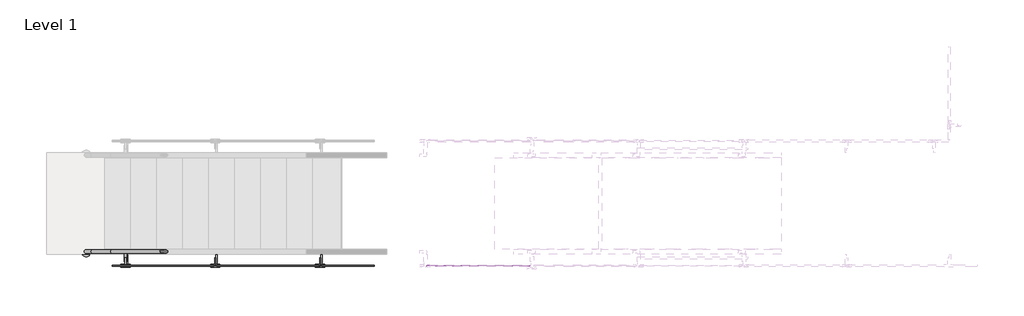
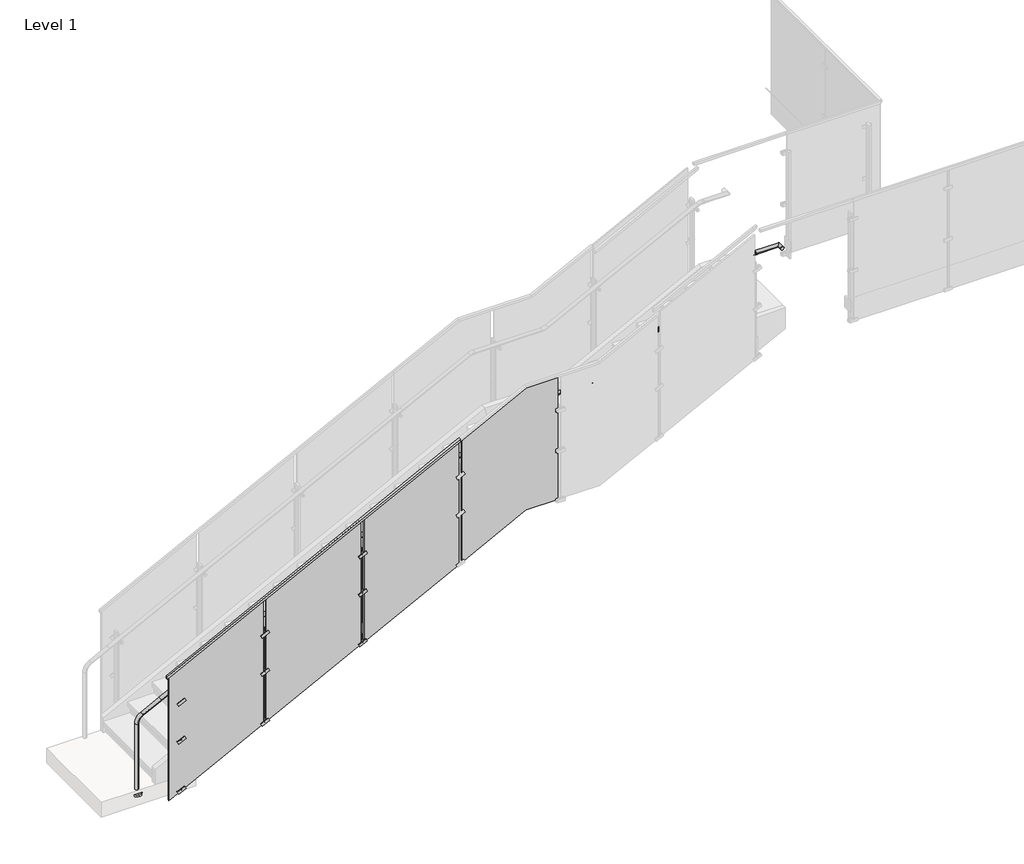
# One storey, part 32 of 37: 2 railings.
"""IFC4 building model written with IfcOpenShell, lengths in millimetres."""

from ifc_helpers import new_model, si_unit, point, frame, frame_2d, origin, place, context, project, spatial, polyline, circle_curve, ellipse_curve, trimmed, segment, composite_curve, outline, extrude, faceted_brep, transform, mapped, element, save
from ifc_brep_helpers import plane_surface, cylinder_surface, revolved_surface, advanced_brep
from components import baluster_landing_panel_viva_solo_lower_standard_glass_65fc855e

model = new_model("IFC4")

# Units and contexts
model_context = context("Model", 3, world=origin())
ifc_project = project(units=[si_unit("LENGTHUNIT", "METRE", prefix="MILLI")], contexts=[model_context])

# Site, building, storey
site = spatial("IfcSite", under=ifc_project)
building = spatial("IfcBuilding", under=site)
storey = spatial("IfcBuildingStorey", under=building, Name="Level 1", Elevation=0.0)

# Railings
placement = place(None, origin())
element("IfcRailing", 1, ObjectType="VIVA-SOLO-Glass-Fascia Mount-Stair-A1_Right_Lower", at=placement, inside=storey, context=model_context, shape_type="SolidModel", body=[
    advanced_brep(
    [(7831.7713929, 32635.0081645, 3765.2852907), (7831.7713929, 32673.1081645, 3765.2852907), (8104.8213929, 32673.1081645, 3765.2852907), (8066.7213929, 32635.0081645, 3765.2852907), (8066.7213929, 32590.5581645, 3765.2852907), (8104.8213929, 32590.5581645, 3765.2852907)],
    [
        (0, 1, circle_curve(frame((7831.7713929, 32654.0581645, 3765.2852907), z_axis=(-1.0, 0.0, 0.0), x_axis=(0.0, 1.0, 0.0)), 19.05)),
        (1, 0, circle_curve(frame((7831.7713929, 32654.0581645, 3765.2852907), z_axis=(-1.0, 0.0, 0.0), x_axis=(0.0, 1.0, 0.0)), 19.05)),
        (1, 2),
        (2, 3, ellipse_curve(frame((8085.7713929, 32654.0581645, 3765.2852907), z_axis=(-0.7071067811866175, 0.7071067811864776, 0.0), x_axis=(-0.7071067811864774, -0.7071067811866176, 0.0)), 26.9407684, 19.05)),
        (3, 0),
        (3, 2, ellipse_curve(frame((8085.7713929, 32654.0581645, 3765.2852907), z_axis=(-0.7071067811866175, 0.7071067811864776, 0.0), x_axis=(-0.7071067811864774, -0.7071067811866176, 0.0)), 26.9407684, 19.05)),
        (4, 5, circle_curve(frame((8085.7713929, 32590.5581645, 3765.2852907), z_axis=(0.0, -1.0, 0.0), x_axis=(1.0, 0.0, 0.0)), 19.05)),
        (5, 4, circle_curve(frame((8085.7713929, 32590.5581645, 3765.2852907), z_axis=(0.0, -1.0, 0.0), x_axis=(1.0, 0.0, 0.0)), 19.05)),
        (2, 5),
        (4, 3),
    ],
    [
        plane_surface(frame((7831.7713929, 32654.0581645, 3765.2852907), z_axis=(-1.0, 0.0, 0.0), x_axis=(0.0, 0.0, 1.0))),
        cylinder_surface(frame((7831.7713929, 32654.0581645, 3765.2852907), z_axis=(-1.0, 0.0, 0.0), x_axis=(0.0, 1.0, 0.0)), 19.05),
        plane_surface(frame((8085.7713929, 32590.5581645, 3765.2852907), z_axis=(0.0, -1.0, 0.0), x_axis=(0.0, 0.0, 1.0))),
        cylinder_surface(frame((8085.7713929, 32654.0581645, 3765.2852907), z_axis=(0.0, 1.0, 0.0), x_axis=(1.0, 0.0, 0.0)), 19.05),
    ],
    [
        (0, [[1, 2]]),
        (1, [[-2, 3, 4, 5]]),
        (1, [[-1, -5, 6, -3]]),
        (2, [[7, 8]]),
        (3, [[-4, 9, -7, 10]]),
        (3, [[-6, -10, -8, -9]]),
    ],
),
    extrude(outline(composite_curve([segment(trimmed(circle_curve(frame_2d((1187.6734986, 32654.0581645)), 50.8), [point((1187.6734986, 32704.8581645))], [point((1187.6734986, 32603.2581645))], False, "CARTESIAN"), True, "CONTINUOUS"), segment(trimmed(circle_curve(frame_2d((1187.6734986, 32654.0581645)), 50.8), [point((1187.6734986, 32603.2581645))], [point((1187.6734986, 32704.8581645))], False, "CARTESIAN"), True, "CONTINUOUS")], self_intersect=False)), frame((0.0, 0.0, -55.5403542), z_axis=(0.0, 0.0, 1.0), x_axis=(1.0, 0.0, 0.0)), (0.0, 0.0, 1.0), 19.05),
    advanced_brep(
    [(1187.6734986, 32635.0081645, -36.4903542), (1187.6734986, 32673.1081645, -36.4903542), (1187.6734986, 32635.0081645, 742.5735715), (1187.6734986, 32673.1081645, 742.5735715), (1243.1848475, 32673.1081645, 833.1185672), (1243.1848475, 32635.0081645, 833.1185672), (1437.6151207, 32635.0081645, 932.0862566), (1437.6151207, 32673.1081645, 932.0862566), (4587.2151207, 32635.0081645, 2535.2760764), (4587.2151207, 32673.1081645, 2535.2760764), (5315.9107862, 32635.0081645, 2906.1922157), (5315.9107862, 32673.1081645, 2906.1922157), (5361.9994372, 32673.1081645, 2917.24722), (5361.9994372, 32635.0081645, 2917.24722), (6083.6428818, 32635.0081645, 2917.24722), (6083.6428818, 32673.1081645, 2917.24722), (6146.9428171, 32673.1081645, 2932.4112486), (6146.9428171, 32635.0081645, 2932.4112486), (7763.8377921, 32635.0081645, 3754.2569063), (7763.8377921, 32673.1081645, 3754.2569063), (7809.8741087, 32673.1081645, 3765.2852907), (7809.8741087, 32635.0081645, 3765.2852907), (7831.7713929, 32635.0081645, 3765.2852907), (7831.7713929, 32673.1081645, 3765.2852907)],
    [
        (0, 1, circle_curve(frame((1187.6734986, 32654.0581645, -36.4903542), z_axis=(0.0, 0.0, -1.0), x_axis=(0.0, 1.0, 0.0)), 19.05)),
        (1, 0, circle_curve(frame((1187.6734986, 32654.0581645, -36.4903542), z_axis=(0.0, 0.0, -1.0), x_axis=(0.0, 1.0, 0.0)), 19.05)),
        (0, 2),
        (2, 3, circle_curve(frame((1187.6734986, 32654.0581645, 742.5735715), z_axis=(0.0, 0.0, -1.0), x_axis=(0.0, 1.0, 0.0)), 19.05)),
        (3, 1),
        (3, 2, circle_curve(frame((1187.6734986, 32654.0581645, 742.5735715), z_axis=(0.0, 0.0, -1.0), x_axis=(0.0, 1.0, 0.0)), 19.05)),
        (4, 3, circle_curve(frame((1289.2734986, 32673.1081645, 742.5735715), z_axis=(0.0, -1.0, 0.0), x_axis=(-0.9999999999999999, 0.0, 0.0)), 101.6)),
        (2, 5, circle_curve(frame((1289.2734986, 32635.0081645, 742.5735715), z_axis=(0.0, 1.0, 0.0), x_axis=(-0.9999999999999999, 0.0, 0.0)), 101.6)),
        (5, 4, circle_curve(frame((1243.1848475, 32654.0581645, 833.1185672), z_axis=(-0.8911909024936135, 0.0, -0.4536284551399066), x_axis=(0.0, 0.9999999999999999, 0.0)), 19.05)),
        (4, 5, circle_curve(frame((1243.1848475, 32654.0581645, 833.1185672), z_axis=(-0.8911909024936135, 0.0, -0.4536284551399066), x_axis=(0.0, 0.9999999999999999, 0.0)), 19.05)),
        (5, 6),
        (6, 7, circle_curve(frame((1437.6151207, 32654.0581645, 932.0862566), z_axis=(-0.8911909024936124, 0.0, -0.4536284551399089), x_axis=(0.0, 1.0, 0.0)), 19.05)),
        (7, 4),
        (7, 6, circle_curve(frame((1437.6151207, 32654.0581645, 932.0862566), z_axis=(-0.8911909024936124, 0.0, -0.4536284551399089), x_axis=(0.0, 1.0, 0.0)), 19.05)),
        (6, 8),
        (8, 9, circle_curve(frame((4587.2151207, 32654.0581645, 2535.2760764), z_axis=(-0.8911909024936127, 0.0, -0.4536284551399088), x_axis=(0.0, 1.0, 0.0)), 19.05)),
        (9, 7),
        (9, 8, circle_curve(frame((4587.2151207, 32654.0581645, 2535.2760764), z_axis=(-0.8911909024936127, 0.0, -0.4536284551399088), x_axis=(0.0, 1.0, 0.0)), 19.05)),
        (8, 10),
        (10, 11, circle_curve(frame((5315.9107862, 32654.0581645, 2906.1922157), z_axis=(-0.8911909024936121, 0.0, -0.45362845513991), x_axis=(0.0, 1.0, 0.0)), 19.05)),
        (11, 9),
        (11, 10, circle_curve(frame((5315.9107862, 32654.0581645, 2906.1922157), z_axis=(-0.8911909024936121, 0.0, -0.45362845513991), x_axis=(0.0, 1.0, 0.0)), 19.05)),
        (12, 11, circle_curve(frame((5361.9994372, 32673.1081645, 2815.64722), z_axis=(0.0, -1.0, 0.0), x_axis=(-0.4536284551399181, 0.0, 0.8911909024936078)), 101.6)),
        (10, 13, circle_curve(frame((5361.9994372, 32635.0081645, 2815.64722), z_axis=(0.0, 1.0, 0.0), x_axis=(-0.4536284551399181, 0.0, 0.8911909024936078)), 101.6)),
        (13, 12, circle_curve(frame((5361.9994372, 32654.0581645, 2917.24722), z_axis=(-1.0, 0.0, 0.0), x_axis=(0.0, 0.9999999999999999, 0.0)), 19.05)),
        (12, 13, circle_curve(frame((5361.9994372, 32654.0581645, 2917.24722), z_axis=(-0.9999999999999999, 0.0, 0.0), x_axis=(0.0, 0.9999999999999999, 0.0)), 19.05)),
        (13, 14),
        (14, 15, circle_curve(frame((6083.6428818, 32654.0581645, 2917.24722), z_axis=(-1.0, 0.0, 0.0), x_axis=(0.0, 1.0, 0.0)), 19.05)),
        (15, 12),
        (15, 14, circle_curve(frame((6083.6428818, 32654.0581645, 2917.24722), z_axis=(-1.0, 0.0, 0.0), x_axis=(0.0, 1.0, 0.0)), 19.05)),
        (16, 17, circle_curve(frame((6146.9428171, 32654.0581645, 2932.4112486), z_axis=(0.8914529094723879, 0.0, 0.4531133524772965), x_axis=(0.0, 1.0, 0.0)), 19.05)),
        (17, 18),
        (18, 19, circle_curve(frame((7763.8377921, 32654.0581645, 3754.2569063), z_axis=(-0.8914529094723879, 0.0, -0.4531133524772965), x_axis=(0.0, 1.0, 0.0)), 19.05)),
        (19, 16),
        (17, 16, circle_curve(frame((6146.9428171, 32654.0581645, 2932.4112486), z_axis=(0.8914529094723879, 0.0, 0.4531133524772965), x_axis=(0.0, 1.0, 0.0)), 19.05)),
        (19, 18, circle_curve(frame((7763.8377921, 32654.0581645, 3754.2569063), z_axis=(-0.8914529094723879, 0.0, -0.4531133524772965), x_axis=(0.0, 1.0, 0.0)), 19.05)),
        (16, 15, circle_curve(frame((6083.6428818, 32673.1081645, 3056.94722), z_axis=(0.0, 1.0, 0.0), x_axis=(0.0, 0.0, -1.0)), 139.7)),
        (14, 17, circle_curve(frame((6083.6428818, 32635.0081645, 3056.94722), z_axis=(0.0, -1.0, 0.0), x_axis=(0.0, 0.0, -1.0)), 139.7)),
        (20, 19, circle_curve(frame((7809.8741087, 32673.1081645, 3663.6852907), z_axis=(0.0, -1.0, 0.0), x_axis=(-0.4531133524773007, 0.0, 0.8914529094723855)), 101.6)),
        (18, 21, circle_curve(frame((7809.8741087, 32635.0081645, 3663.6852907), z_axis=(0.0, 1.0, 0.0), x_axis=(-0.4531133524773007, 0.0, 0.8914529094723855)), 101.6)),
        (21, 20, circle_curve(frame((7809.8741087, 32654.0581645, 3765.2852907), z_axis=(-0.9999999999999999, 0.0, 0.0), x_axis=(0.0, 1.0, 0.0)), 19.05)),
        (20, 21, circle_curve(frame((7809.8741087, 32654.0581645, 3765.2852907), z_axis=(-0.9999999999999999, 0.0, 0.0), x_axis=(0.0, 1.0, 0.0)), 19.05)),
        (22, 23, circle_curve(frame((7831.7713929, 32654.0581645, 3765.2852907), z_axis=(1.0, 0.0, 0.0), x_axis=(0.0, 1.0, 0.0)), 19.05)),
        (23, 22, circle_curve(frame((7831.7713929, 32654.0581645, 3765.2852907), z_axis=(1.0, 0.0, 0.0), x_axis=(0.0, 1.0, 0.0)), 19.05)),
        (21, 22),
        (23, 20),
    ],
    [
        plane_surface(frame((1168.6234986, 32615.9581645, -36.4903542), z_axis=(0.0, 0.0, -1.0), x_axis=(1.0, 0.0, 0.0))),
        cylinder_surface(frame((1187.6734986, 32654.0581645, -36.4903542), z_axis=(0.0, 0.0, -1.0), x_axis=(0.0, 1.0, 0.0)), 19.05),
        revolved_surface(trimmed(ellipse_curve(frame((1187.6734986, 32654.0581645, 742.5735715), z_axis=(0.0, 0.0, -0.9999999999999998), x_axis=(0.0, 0.9999999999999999, 0.0)), 19.05, 19.05), [point((1187.6734986, 32635.0081645, 742.5735715))], [point((1187.6734986, 32673.1081645, 742.5735715))], True, "CARTESIAN"), (1289.2734986, 32654.0581645, 742.5735715), (0.0, 0.9999999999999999, 0.0)),
        revolved_surface(trimmed(ellipse_curve(frame((1187.6734986, 32654.0581645, 742.5735715), z_axis=(0.0, 0.0, -0.9999999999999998), x_axis=(0.0, 0.9999999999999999, 0.0)), 19.05, 19.05), [point((1187.6734986, 32673.1081645, 742.5735715))], [point((1187.6734986, 32635.0081645, 742.5735715))], True, "CARTESIAN"), (1289.2734986, 32654.0581645, 742.5735715), (0.0, 0.9999999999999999, 0.0)),
        cylinder_surface(frame((1243.1848475, 32654.0581645, 833.1185672), z_axis=(-0.8911909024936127, 0.0, -0.453628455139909), x_axis=(0.0, 1.0, 0.0)), 19.05),
        cylinder_surface(frame((1437.6151207, 32654.0581645, 932.0862566), z_axis=(-0.8911909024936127, 0.0, -0.4536284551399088), x_axis=(0.0, 1.0, 0.0)), 19.05),
        cylinder_surface(frame((4587.2151207, 32654.0581645, 2535.2760764), z_axis=(-0.8911909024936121, 0.0, -0.45362845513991), x_axis=(0.0, 1.0, 0.0)), 19.05),
        revolved_surface(trimmed(ellipse_curve(frame((5315.9107862, 32654.0581645, 2906.1922157), z_axis=(-0.8911909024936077, 0.0, -0.45362845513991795), x_axis=(0.0, 0.9999999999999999, 0.0)), 19.05, 19.05), [point((5315.9107862, 32635.0081645, 2906.1922157))], [point((5315.9107862, 32673.1081645, 2906.1922157))], True, "CARTESIAN"), (5361.9994372, 32654.0581645, 2815.64722), (0.0, 0.9999999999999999, 0.0)),
        revolved_surface(trimmed(ellipse_curve(frame((5315.9107862, 32654.0581645, 2906.1922157), z_axis=(-0.8911909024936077, 0.0, -0.45362845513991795), x_axis=(0.0, 0.9999999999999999, 0.0)), 19.05, 19.05), [point((5315.9107862, 32673.1081645, 2906.1922157))], [point((5315.9107862, 32635.0081645, 2906.1922157))], True, "CARTESIAN"), (5361.9994372, 32654.0581645, 2815.64722), (0.0, 0.9999999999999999, 0.0)),
        cylinder_surface(frame((5361.9994372, 32654.0581645, 2917.24722), z_axis=(-1.0, 0.0, 0.0), x_axis=(0.0, 1.0, 0.0)), 19.05),
        cylinder_surface(frame((6146.9428171, 32654.0581645, 2932.4112486), z_axis=(-0.8914529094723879, 0.0, -0.4531133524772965), x_axis=(0.0, 1.0, 0.0)), 19.05),
        revolved_surface(trimmed(ellipse_curve(frame((6083.6428818, 32654.0581645, 2917.24722), z_axis=(-1.0, 0.0, 0.0), x_axis=(0.0, 1.0, 0.0)), 19.05, 19.05), [point((6083.6428818, 32635.0081645, 2917.24722))], [point((6083.6428818, 32673.1081645, 2917.24722))], True, "CARTESIAN"), (6083.6428818, 32654.0581645, 3056.94722), (0.0, -1.0, 0.0)),
        revolved_surface(trimmed(ellipse_curve(frame((6083.6428818, 32654.0581645, 2917.24722), z_axis=(-1.0, 0.0, 0.0), x_axis=(0.0, 1.0, 0.0)), 19.05, 19.05), [point((6083.6428818, 32673.1081645, 2917.24722))], [point((6083.6428818, 32635.0081645, 2917.24722))], True, "CARTESIAN"), (6083.6428818, 32654.0581645, 3056.94722), (0.0, -1.0, 0.0)),
        revolved_surface(trimmed(ellipse_curve(frame((7763.8377921, 32654.0581645, 3754.2569063), z_axis=(-0.8914529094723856, 0.0, -0.45311335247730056), x_axis=(0.0, 1.0, 0.0)), 19.05, 19.05), [point((7763.8377921, 32635.0081645, 3754.2569063))], [point((7763.8377921, 32673.1081645, 3754.2569063))], True, "CARTESIAN"), (7809.8741087, 32654.0581645, 3663.6852907), (0.0, 1.0, 0.0)),
        revolved_surface(trimmed(ellipse_curve(frame((7763.8377921, 32654.0581645, 3754.2569063), z_axis=(-0.8914529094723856, 0.0, -0.45311335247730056), x_axis=(0.0, 1.0, 0.0)), 19.05, 19.05), [point((7763.8377921, 32673.1081645, 3754.2569063))], [point((7763.8377921, 32635.0081645, 3754.2569063))], True, "CARTESIAN"), (7809.8741087, 32654.0581645, 3663.6852907), (0.0, 1.0, 0.0)),
        plane_surface(frame((7831.7713929, 32654.0581645, 3784.3352907), z_axis=(1.0, 0.0, 0.0), x_axis=(0.0, 1.0, 0.0))),
        cylinder_surface(frame((7809.8741087, 32654.0581645, 3765.2852907), z_axis=(-1.0, 0.0, 0.0), x_axis=(0.0, 1.0, 0.0)), 19.05),
    ],
    [
        (0, [[1, 2]]),
        (1, [[-1, 3, 4, 5]]),
        (1, [[-2, -5, 6, -3]]),
        (2, [[7, -4, 8, 9]]),
        (3, [[-8, -6, -7, 10]]),
        (4, [[-9, 11, 12, 13]]),
        (4, [[-10, -13, 14, -11]]),
        (5, [[-12, 15, 16, 17]]),
        (5, [[-14, -17, 18, -15]]),
        (6, [[-16, 19, 20, 21]]),
        (6, [[-18, -21, 22, -19]]),
        (7, [[23, -20, 24, 25]]),
        (8, [[-24, -22, -23, 26]]),
        (9, [[-25, 27, 28, 29]]),
        (9, [[-26, -29, 30, -27]]),
        (10, [[31, 32, 33, 34]]),
        (10, [[35, -34, 36, -32]]),
        (11, [[37, -28, 38, -31]]),
        (12, [[-38, -30, -37, -35]]),
        (13, [[39, -33, 40, 41]]),
        (14, [[-40, -36, -39, 42]]),
        (15, [[43, 44]]),
        (16, [[-41, 45, -44, 46]]),
        (16, [[-42, -46, -43, -45]]),
    ],
),
    faceted_brep([(1428.9734986, 32501.3406645, 1279.2634433), (1428.9734986, 32523.5656645, 1279.2634433), (1428.9734986, 32523.5656645, 1250.7622547), (1428.9734986, 32518.8031645, 1250.7622547), (1428.9734986, 32518.8031645, 1273.9194705), (1428.9734986, 32506.1031645, 1273.9194705), (1428.9734986, 32506.1031645, 1250.7622547), (1428.9734986, 32501.3406645, 1250.7622547), (4578.5734986, 32501.3406645, 2882.453263), (4578.5734986, 32501.3406645, 2853.9520744), (4578.5734986, 32506.1031645, 2853.9520744), (4578.5734986, 32506.1031645, 2877.1092902), (4578.5734986, 32518.8031645, 2877.1092902), (4578.5734986, 32518.8031645, 2853.9520744), (4578.5734986, 32523.5656645, 2853.9520744), (4578.5734986, 32523.5656645, 2882.453263)], [[[0, 1, 2, 3, 4, 5, 6, 7]], [[8, 9, 10, 11, 12, 13, 14, 15]], [[1, 0, 8, 15]], [[2, 1, 15, 14]], [[3, 2, 14, 13]], [[4, 3, 13, 12]], [[5, 4, 12, 11]], [[6, 5, 11, 10]], [[7, 6, 10, 9]], [[0, 7, 9, 8]]]),
    extrude(outline(polyline([(2868.4999629, 4562.0232119), (2351.3419566, 3546.0232119), (934.2759566, 3546.0232119), (1451.4339629, 4562.0232119), (2868.4999629, 4562.0232119)])), frame((0.0, 32506.4206645, 0.0), z_axis=(0.0, 1.0, 0.0), x_axis=(0.0, 0.0, 1.0)), (0.0, 0.0, 1.0), 12.7),
    extrude(outline(composite_curve([segment(trimmed(circle_curve(frame_2d((0.0, -7.0)), 7.0), [point((0.0, -14.0))], [point((0.0, 0.0))], False, "CARTESIAN"), True, "CONTINUOUS"), segment(trimmed(circle_curve(frame_2d((0.0, -7.0)), 7.0), [point((0.0, 0.0))], [point((0.0, -14.0))], False, "CARTESIAN"), True, "CONTINUOUS")], self_intersect=False)), frame((3535.2933249, 32644.6306015, 1918.9620926), z_axis=(-0.4457291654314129, 0.0, 0.8951678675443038), x_axis=(-0.8951678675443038, 0.0, -0.4457291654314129)), (0.0, 0.0, 1.0), 50.5982576),
    extrude(outline(composite_curve([segment(trimmed(circle_curve(frame_2d((1931.7644508, 3528.8256666)), 12.5), [point((1931.7644508, 3541.3256666))], [point((1931.7644508, 3516.3256666))], False, "CARTESIAN"), True, "CONTINUOUS"), segment(trimmed(circle_curve(frame_2d((1931.7644508, 3528.8256666)), 12.5), [point((1931.7644508, 3516.3256666))], [point((1931.7644508, 3541.3256666))], False, "CARTESIAN"), True, "CONTINUOUS")], self_intersect=False)), frame((0.0, 32552.6082406, 0.0), z_axis=(0.0, 1.0, 0.0), x_axis=(0.0, 0.0, 1.0)), (0.0, 0.0, 1.0), 112.87),
    extrude(outline(composite_curve([segment(trimmed(circle_curve(frame_2d((18.6575252, 0.3952034)), 19.05), [point((5.2466064, 13.9247916))], [point((5.2466064, -13.1343849))], True, "CARTESIAN"), True, "CONTINUOUS"), segment(polyline([(5.2466064, -13.1343849), (4.2292193, -14.1607745)]), True, "CONTINUOUS"), segment(trimmed(circle_curve(frame_2d((3.1638975, -13.1047966)), 1.5), [point((4.2292193, -14.1607745))], [point((2.0329757, -14.0901981))], False, "CARTESIAN"), True, "CONTINUOUS"), segment(trimmed(circle_curve(frame_2d((18.6575252, 0.3952034)), 22.05), [point((2.0329757, -14.0901981))], [point((2.0329757, 14.8806048))], False, "CARTESIAN"), True, "CONTINUOUS"), segment(trimmed(circle_curve(frame_2d((3.1638975, 13.8952034)), 1.5), [point((2.0329757, 14.8806048))], [point((4.2292193, 14.9511812))], False, "CARTESIAN"), True, "CONTINUOUS"), segment(polyline([(4.2292193, 14.9511812), (5.2466064, 13.9247916)]), True, "CONTINUOUS")], self_intersect=False)), frame((3476.6157764, 32653.3578339, 1950.0475284), z_axis=(0.8952329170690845, 0.0, 0.44559850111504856), x_axis=(-0.44559850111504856, 0.0, 0.8952329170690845)), (0.0, 0.0, 1.0), 74.5229187),
    extrude(outline(polyline([(3548.5505819, 32528.4551645), (3535.0568319, 32528.4551645), (3535.0568319, 32628.4676645), (3548.5505819, 32628.4676645), (3548.5505819, 32528.4551645)])), frame((0.0, 0.0, 1014.5566565), z_axis=(0.0, 0.0, 1.0), x_axis=(1.0, 0.0, 0.0)), (0.0, 0.0, 1.0), 127.0),
    extrude(outline(polyline([(3535.0568319, 32528.4551645), (3522.3568319, 32528.4551645), (3522.3568319, 32591.9551645), (3535.0568319, 32591.9551645), (3535.0568319, 32528.4551645)])), frame((0.0, 0.0, 919.6330611), z_axis=(0.0, 0.0, 1.0), x_axis=(1.0, 0.0, 0.0)), (0.0, 0.0, 1.0), 1077.9740667),
    extrude(outline(polyline([(0.0, 88.9), (9.525, 88.9), (9.525, 0.0), (0.0, 0.0), (0.0, 88.9)])), frame((3575.6084081, 32518.9301645, 937.8489381), z_axis=(-0.4383711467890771, 0.0, 0.8987940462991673), x_axis=(0.0, 1.0, 0.0)), (0.0, 0.0, 1.0), 31.75),
    extrude(outline(polyline([(0.0, 88.9), (9.525, 88.9), (9.525, 0.0), (0.0, 0.0), (0.0, 88.9)])), frame((3575.6084081, 32496.7051645, 937.8489381), z_axis=(-0.43837114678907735, 0.0, 0.8987940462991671), x_axis=(0.0, 1.0, 0.0)), (0.0, 0.0, 1.0), 31.75),
    extrude(outline(polyline([(0.0, 88.9), (9.525, 88.9), (9.525, 0.0), (0.0, 0.0), (0.0, 88.9)])), frame((3575.6084081, 32518.9301645, 1505.0431599), z_axis=(-0.4383711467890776, 0.0, 0.8987940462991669), x_axis=(0.0, 1.0, 0.0)), (0.0, 0.0, 1.0), 31.75),
    extrude(outline(polyline([(0.0, 88.9), (9.525, 88.9), (9.525, 0.0), (0.0, 0.0), (0.0, 88.9)])), frame((3575.6084081, 32496.7051645, 1936.3061725), z_axis=(-0.4383711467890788, 0.0, 0.8987940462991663), x_axis=(0.0, 1.0, 0.0)), (0.0, 0.0, 1.0), 31.75),
    extrude(outline(polyline([(0.0, 88.9), (9.525, 88.9), (9.525, 0.0), (0.0, 0.0), (0.0, 88.9)])), frame((3575.6084081, 32518.9301645, 1936.3061725), z_axis=(-0.4383711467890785, 0.0, 0.8987940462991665), x_axis=(0.0, 1.0, 0.0)), (0.0, 0.0, 1.0), 31.75),
    extrude(outline(polyline([(0.0, 88.9), (9.525, 88.9), (9.525, 0.0), (0.0, 0.0), (0.0, 88.9)])), frame((3575.6084081, 32496.7051645, 1505.0431599), z_axis=(-0.438371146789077, 0.0, 0.8987940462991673), x_axis=(0.0, 1.0, 0.0)), (0.0, 0.0, 1.0), 31.75),
    extrude(outline(composite_curve([segment(trimmed(circle_curve(frame_2d((936.3734187, 3528.6978708)), 6.35), [point((936.3734187, 3535.0478708))], [point((936.3734187, 3522.3478708))], False, "CARTESIAN"), True, "CONTINUOUS"), segment(trimmed(circle_curve(frame_2d((936.3734187, 3528.6978708)), 6.35), [point((936.3734187, 3522.3478708))], [point((936.3734187, 3535.0478708))], False, "CARTESIAN"), True, "CONTINUOUS")], self_intersect=False)), frame((0.0, 32498.2926645, 0.0), z_axis=(0.0, 1.0, 0.0), x_axis=(0.0, 0.0, 1.0)), (0.0, 0.0, 1.0), 7.9375),
    extrude(outline(composite_curve([segment(trimmed(circle_curve(frame_2d((1496.9122228, 3528.6978708)), 6.35), [point((1496.9122228, 3535.0478708))], [point((1496.9122228, 3522.3478708))], False, "CARTESIAN"), True, "CONTINUOUS"), segment(trimmed(circle_curve(frame_2d((1496.9122228, 3528.6978708)), 6.35), [point((1496.9122228, 3522.3478708))], [point((1496.9122228, 3535.0478708))], False, "CARTESIAN"), True, "CONTINUOUS")], self_intersect=False)), frame((0.0, 32506.2301645, 0.0), z_axis=(0.0, 1.0, 0.0), x_axis=(0.0, 0.0, 1.0)), (0.0, 0.0, 1.0), 12.7),
    extrude(outline(composite_curve([segment(trimmed(circle_curve(frame_2d((1931.0951657, 3528.6978708)), 6.35), [point((1931.0951657, 3535.0478708))], [point((1931.0951657, 3522.3478708))], False, "CARTESIAN"), True, "CONTINUOUS"), segment(trimmed(circle_curve(frame_2d((1931.0951657, 3528.6978708)), 6.35), [point((1931.0951657, 3522.3478708))], [point((1931.0951657, 3535.0478708))], False, "CARTESIAN"), True, "CONTINUOUS")], self_intersect=False)), frame((0.0, 32506.2301645, 0.0), z_axis=(0.0, 1.0, 0.0), x_axis=(0.0, 0.0, 1.0)), (0.0, 0.0, 1.0), 12.7),
    extrude(outline(polyline([(2334.1033564, 3512.1565452), (1816.94535, 2496.1565452), (399.87935, 2496.1565452), (917.0373564, 3512.1565452), (2334.1033564, 3512.1565452)])), frame((0.0, 32506.4206645, 0.0), z_axis=(0.0, 1.0, 0.0), x_axis=(0.0, 0.0, 1.0)), (0.0, 0.0, 1.0), 12.7),
    extrude(outline(composite_curve([segment(trimmed(circle_curve(frame_2d((0.0, -7.0)), 7.0), [point((0.0, -14.0))], [point((0.0, 0.0))], False, "CARTESIAN"), True, "CONTINUOUS"), segment(trimmed(circle_curve(frame_2d((0.0, -7.0)), 7.0), [point((0.0, 0.0))], [point((0.0, -14.0))], False, "CARTESIAN"), True, "CONTINUOUS")], self_intersect=False)), frame((2485.4266582, 32644.6306015, 1384.565486), z_axis=(-0.4457291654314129, 0.0, 0.8951678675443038), x_axis=(-0.8951678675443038, 0.0, -0.4457291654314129)), (0.0, 0.0, 1.0), 50.5982576),
    extrude(outline(composite_curve([segment(trimmed(circle_curve(frame_2d((1397.3678442, 2478.9589999)), 12.5), [point((1397.3678442, 2491.4589999))], [point((1397.3678442, 2466.4589999))], False, "CARTESIAN"), True, "CONTINUOUS"), segment(trimmed(circle_curve(frame_2d((1397.3678442, 2478.9589999)), 12.5), [point((1397.3678442, 2466.4589999))], [point((1397.3678442, 2491.4589999))], False, "CARTESIAN"), True, "CONTINUOUS")], self_intersect=False)), frame((0.0, 32552.6082406, 0.0), z_axis=(0.0, 1.0, 0.0), x_axis=(0.0, 0.0, 1.0)), (0.0, 0.0, 1.0), 112.87),
    extrude(outline(composite_curve([segment(trimmed(circle_curve(frame_2d((18.6575251, 0.3952034)), 19.05), [point((5.2466064, 13.9247916))], [point((5.2466064, -13.1343849))], True, "CARTESIAN"), True, "CONTINUOUS"), segment(polyline([(5.2466064, -13.1343849), (4.2292193, -14.1607745)]), True, "CONTINUOUS"), segment(trimmed(circle_curve(frame_2d((3.1638974, -13.1047966)), 1.5), [point((4.2292193, -14.1607745))], [point((2.0329756, -14.0901981))], False, "CARTESIAN"), True, "CONTINUOUS"), segment(trimmed(circle_curve(frame_2d((18.6575251, 0.3952034)), 22.05), [point((2.0329756, -14.0901981))], [point((2.0329756, 14.8806048))], False, "CARTESIAN"), True, "CONTINUOUS"), segment(trimmed(circle_curve(frame_2d((3.1638974, 13.8952034)), 1.5), [point((2.0329756, 14.8806048))], [point((4.2292193, 14.9511812))], False, "CARTESIAN"), True, "CONTINUOUS"), segment(polyline([(4.2292193, 14.9511812), (5.2466064, 13.9247916)]), True, "CONTINUOUS")], self_intersect=False)), frame((2426.7491098, 32653.3578339, 1415.6509219), z_axis=(0.8952329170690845, 0.0, 0.44559850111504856), x_axis=(-0.44559850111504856, 0.0, 0.8952329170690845)), (0.0, 0.0, 1.0), 74.5229187),
    extrude(outline(polyline([(2498.6839153, 32528.4551645), (2485.1901653, 32528.4551645), (2485.1901653, 32628.4676645), (2498.6839153, 32628.4676645), (2498.6839153, 32528.4551645)])), frame((0.0, 0.0, 480.1600499), z_axis=(0.0, 0.0, 1.0), x_axis=(1.0, 0.0, 0.0)), (0.0, 0.0, 1.0), 127.0),
    extrude(outline(polyline([(2485.1901653, 32528.4551645), (2472.4901653, 32528.4551645), (2472.4901653, 32591.9551645), (2485.1901653, 32591.9551645), (2485.1901653, 32528.4551645)])), frame((0.0, 0.0, 385.2364545), z_axis=(0.0, 0.0, 1.0), x_axis=(1.0, 0.0, 0.0)), (0.0, 0.0, 1.0), 1077.9740667),
    extrude(outline(polyline([(0.0, 88.9000001), (9.525, 88.9000001), (9.525, 0.0), (0.0, 0.0), (0.0, 88.9000001)])), frame((2525.7417415, 32518.9301645, 403.4523315), z_axis=(-0.4383711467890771, 0.0, 0.8987940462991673), x_axis=(0.0, 1.0, 0.0)), (0.0, 0.0, 1.0), 31.75),
    extrude(outline(polyline([(0.0, 88.9000001), (9.525, 88.9000001), (9.525, 0.0), (0.0, 0.0), (0.0, 88.9000001)])), frame((2525.7417415, 32496.7051645, 403.4523315), z_axis=(-0.43837114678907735, 0.0, 0.8987940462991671), x_axis=(0.0, 1.0, 0.0)), (0.0, 0.0, 1.0), 31.75),
    extrude(outline(polyline([(0.0, 88.9000001), (9.525, 88.9000001), (9.525, 0.0), (0.0, 0.0), (0.0, 88.9000001)])), frame((2525.7417415, 32518.9301645, 970.6465534), z_axis=(-0.4383711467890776, 0.0, 0.8987940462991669), x_axis=(0.0, 1.0, 0.0)), (0.0, 0.0, 1.0), 31.75),
    extrude(outline(polyline([(0.0, 88.9000001), (9.525, 88.9000001), (9.525, 0.0), (0.0, 0.0), (0.0, 88.9000001)])), frame((2525.7417415, 32496.7051645, 1401.9095659), z_axis=(-0.4383711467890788, 0.0, 0.8987940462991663), x_axis=(0.0, 1.0, 0.0)), (0.0, 0.0, 1.0), 31.75),
    extrude(outline(polyline([(0.0, 88.9000001), (9.525, 88.9000001), (9.525, 0.0), (0.0, 0.0), (0.0, 88.9000001)])), frame((2525.7417415, 32518.9301645, 1401.9095659), z_axis=(-0.4383711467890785, 0.0, 0.8987940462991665), x_axis=(0.0, 1.0, 0.0)), (0.0, 0.0, 1.0), 31.75),
    extrude(outline(polyline([(0.0, 88.9000001), (9.525, 88.9000001), (9.525, 0.0), (0.0, 0.0), (0.0, 88.9000001)])), frame((2525.7417415, 32496.7051645, 970.6465534), z_axis=(-0.438371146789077, 0.0, 0.8987940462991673), x_axis=(0.0, 1.0, 0.0)), (0.0, 0.0, 1.0), 31.75),
    extrude(outline(composite_curve([segment(trimmed(circle_curve(frame_2d((401.9768122, 2478.8312041)), 6.35), [point((401.9768122, 2485.1812041))], [point((401.9768122, 2472.4812041))], False, "CARTESIAN"), True, "CONTINUOUS"), segment(trimmed(circle_curve(frame_2d((401.9768122, 2478.8312041)), 6.35), [point((401.9768122, 2472.4812041))], [point((401.9768122, 2485.1812041))], False, "CARTESIAN"), True, "CONTINUOUS")], self_intersect=False)), frame((0.0, 32498.2926645, 0.0), z_axis=(0.0, 1.0, 0.0), x_axis=(0.0, 0.0, 1.0)), (0.0, 0.0, 1.0), 7.9375),
    extrude(outline(composite_curve([segment(trimmed(circle_curve(frame_2d((962.5156163, 2478.8312041)), 6.35), [point((962.5156163, 2485.1812041))], [point((962.5156163, 2472.4812041))], False, "CARTESIAN"), True, "CONTINUOUS"), segment(trimmed(circle_curve(frame_2d((962.5156163, 2478.8312041)), 6.35), [point((962.5156163, 2472.4812041))], [point((962.5156163, 2485.1812041))], False, "CARTESIAN"), True, "CONTINUOUS")], self_intersect=False)), frame((0.0, 32506.2301645, 0.0), z_axis=(0.0, 1.0, 0.0), x_axis=(0.0, 0.0, 1.0)), (0.0, 0.0, 1.0), 12.7),
    extrude(outline(composite_curve([segment(trimmed(circle_curve(frame_2d((1396.6985592, 2478.8312041)), 6.35), [point((1396.6985592, 2485.1812041))], [point((1396.6985592, 2472.4812041))], False, "CARTESIAN"), True, "CONTINUOUS"), segment(trimmed(circle_curve(frame_2d((1396.6985592, 2478.8312041)), 6.35), [point((1396.6985592, 2472.4812041))], [point((1396.6985592, 2485.1812041))], False, "CARTESIAN"), True, "CONTINUOUS")], self_intersect=False)), frame((0.0, 32506.2301645, 0.0), z_axis=(0.0, 1.0, 0.0), x_axis=(0.0, 0.0, 1.0)), (0.0, 0.0, 1.0), 12.7),
    extrude(outline(polyline([(1799.7067498, 2462.2898785), (1282.5487434, 1446.2898785), (-134.5172566, 1446.2898785), (382.6407498, 2462.2898785), (1799.7067498, 2462.2898785)])), frame((0.0, 32506.4206645, 0.0), z_axis=(0.0, 1.0, 0.0), x_axis=(0.0, 0.0, 1.0)), (0.0, 0.0, 1.0), 12.7),
    extrude(outline(composite_curve([segment(trimmed(circle_curve(frame_2d((0.0, -7.0)), 7.0), [point((0.0, -14.0))], [point((0.0, 0.0))], False, "CARTESIAN"), True, "CONTINUOUS"), segment(trimmed(circle_curve(frame_2d((0.0, -7.0)), 7.0), [point((0.0, 0.0))], [point((0.0, -14.0))], False, "CARTESIAN"), True, "CONTINUOUS")], self_intersect=False)), frame((1587.9599916, 32644.6306015, 927.7425804), z_axis=(-0.4457291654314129, 0.0, 0.8951678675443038), x_axis=(-0.8951678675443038, 0.0, -0.4457291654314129)), (0.0, 0.0, 1.0), 50.5982576),
    extrude(outline(composite_curve([segment(trimmed(circle_curve(frame_2d((940.5449386, 1581.4923332)), 12.5), [point((940.5449386, 1593.9923332))], [point((940.5449386, 1568.9923332))], False, "CARTESIAN"), True, "CONTINUOUS"), segment(trimmed(circle_curve(frame_2d((940.5449386, 1581.4923332)), 12.5), [point((940.5449386, 1568.9923332))], [point((940.5449386, 1593.9923332))], False, "CARTESIAN"), True, "CONTINUOUS")], self_intersect=False)), frame((0.0, 32552.6082406, 0.0), z_axis=(0.0, 1.0, 0.0), x_axis=(0.0, 0.0, 1.0)), (0.0, 0.0, 1.0), 112.87),
    extrude(outline(composite_curve([segment(trimmed(circle_curve(frame_2d((18.6575252, 0.3952034)), 19.05), [point((5.2466064, 13.9247916))], [point((5.2466064, -13.1343849))], True, "CARTESIAN"), True, "CONTINUOUS"), segment(polyline([(5.2466064, -13.1343849), (4.2292194, -14.1607745)]), True, "CONTINUOUS"), segment(trimmed(circle_curve(frame_2d((3.1638975, -13.1047966)), 1.5), [point((4.2292194, -14.1607745))], [point((2.0329757, -14.0901981))], False, "CARTESIAN"), True, "CONTINUOUS"), segment(trimmed(circle_curve(frame_2d((18.6575252, 0.3952034)), 22.05), [point((2.0329757, -14.0901981))], [point((2.0329757, 14.8806048))], False, "CARTESIAN"), True, "CONTINUOUS"), segment(trimmed(circle_curve(frame_2d((3.1638975, 13.8952034)), 1.5), [point((2.0329757, 14.8806048))], [point((4.2292194, 14.9511812))], False, "CARTESIAN"), True, "CONTINUOUS"), segment(polyline([(4.2292194, 14.9511812), (5.2466064, 13.9247916)]), True, "CONTINUOUS")], self_intersect=False)), frame((1529.2824431, 32653.3578339, 958.8280162), z_axis=(0.8952329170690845, 0.0, 0.44559850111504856), x_axis=(-0.44559850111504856, 0.0, 0.8952329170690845)), (0.0, 0.0, 1.0), 74.5229187),
    extrude(outline(polyline([(1601.2172486, 32528.4551645), (1587.7234986, 32528.4551645), (1587.7234986, 32628.4676645), (1601.2172486, 32628.4676645), (1601.2172486, 32528.4551645)])), frame((0.0, 0.0, 23.3371443), z_axis=(0.0, 0.0, 1.0), x_axis=(1.0, 0.0, 0.0)), (0.0, 0.0, 1.0), 127.0),
    extrude(outline(polyline([(1587.7234986, 32528.4551645), (1575.0234986, 32528.4551645), (1575.0234986, 32591.9551645), (1587.7234986, 32591.9551645), (1587.7234986, 32528.4551645)])), frame((0.0, 0.0, -71.5864511), z_axis=(0.0, 0.0, 1.0), x_axis=(1.0, 0.0, 0.0)), (0.0, 0.0, 1.0), 1077.9740667),
    extrude(outline(polyline([(0.0, 88.9), (9.525, 88.9), (9.525, 0.0), (0.0, 0.0), (0.0, 88.9)])), frame((1628.2750748, 32518.9301645, -53.3705741), z_axis=(-0.4383711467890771, 0.0, 0.8987940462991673), x_axis=(0.0, 1.0, 0.0)), (0.0, 0.0, 1.0), 31.75),
    extrude(outline(polyline([(0.0, 88.9), (9.525, 88.9), (9.525, 0.0), (0.0, 0.0), (0.0, 88.9)])), frame((1628.2750748, 32496.7051645, -53.3705741), z_axis=(-0.43837114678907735, 0.0, 0.8987940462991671), x_axis=(0.0, 1.0, 0.0)), (0.0, 0.0, 1.0), 31.75),
    extrude(outline(polyline([(0.0, 88.9), (9.525, 88.9), (9.525, 0.0), (0.0, 0.0), (0.0, 88.9)])), frame((1628.2750748, 32518.9301645, 513.8236478), z_axis=(-0.4383711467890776, 0.0, 0.8987940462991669), x_axis=(0.0, 1.0, 0.0)), (0.0, 0.0, 1.0), 31.75),
    extrude(outline(polyline([(0.0, 88.9), (9.525, 88.9), (9.525, 0.0), (0.0, 0.0), (0.0, 88.9)])), frame((1628.2750748, 32496.7051645, 945.0866603), z_axis=(-0.4383711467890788, 0.0, 0.8987940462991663), x_axis=(0.0, 1.0, 0.0)), (0.0, 0.0, 1.0), 31.75),
    extrude(outline(polyline([(0.0, 88.9), (9.525, 88.9), (9.525, 0.0), (0.0, 0.0), (0.0, 88.9)])), frame((1628.2750748, 32518.9301645, 945.0866603), z_axis=(-0.4383711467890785, 0.0, 0.8987940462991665), x_axis=(0.0, 1.0, 0.0)), (0.0, 0.0, 1.0), 31.75),
    extrude(outline(polyline([(0.0, 88.9), (9.525, 88.9), (9.525, 0.0), (0.0, 0.0), (0.0, 88.9)])), frame((1628.2750748, 32496.7051645, 513.8236478), z_axis=(-0.438371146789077, 0.0, 0.8987940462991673), x_axis=(0.0, 1.0, 0.0)), (0.0, 0.0, 1.0), 31.75),
    extrude(outline(composite_curve([segment(trimmed(circle_curve(frame_2d((-54.8460935, 1581.3645375)), 6.35), [point((-54.8460935, 1587.7145375))], [point((-54.8460935, 1575.0145375))], False, "CARTESIAN"), True, "CONTINUOUS"), segment(trimmed(circle_curve(frame_2d((-54.8460935, 1581.3645375)), 6.35), [point((-54.8460935, 1575.0145375))], [point((-54.8460935, 1587.7145375))], False, "CARTESIAN"), True, "CONTINUOUS")], self_intersect=False)), frame((0.0, 32498.2926645, 0.0), z_axis=(0.0, 1.0, 0.0), x_axis=(0.0, 0.0, 1.0)), (0.0, 0.0, 1.0), 7.9375),
    extrude(outline(composite_curve([segment(trimmed(circle_curve(frame_2d((505.6927106, 1581.3645375)), 6.35), [point((505.6927106, 1587.7145375))], [point((505.6927106, 1575.0145375))], False, "CARTESIAN"), True, "CONTINUOUS"), segment(trimmed(circle_curve(frame_2d((505.6927106, 1581.3645375)), 6.35), [point((505.6927106, 1575.0145375))], [point((505.6927106, 1587.7145375))], False, "CARTESIAN"), True, "CONTINUOUS")], self_intersect=False)), frame((0.0, 32506.2301645, 0.0), z_axis=(0.0, 1.0, 0.0), x_axis=(0.0, 0.0, 1.0)), (0.0, 0.0, 1.0), 12.7),
    extrude(outline(composite_curve([segment(trimmed(circle_curve(frame_2d((939.8756535, 1581.3645375)), 6.35), [point((939.8756535, 1587.7145375))], [point((939.8756535, 1575.0145375))], False, "CARTESIAN"), True, "CONTINUOUS"), segment(trimmed(circle_curve(frame_2d((939.8756535, 1581.3645375)), 6.35), [point((939.8756535, 1575.0145375))], [point((939.8756535, 1587.7145375))], False, "CARTESIAN"), True, "CONTINUOUS")], self_intersect=False)), frame((0.0, 32506.2301645, 0.0), z_axis=(0.0, 1.0, 0.0), x_axis=(0.0, 0.0, 1.0)), (0.0, 0.0, 1.0), 12.7),
])
baluster_landing_panel_viva_solo_lower_standard_glass_shape = baluster_landing_panel_viva_solo_lower_standard_glass_65fc855e(model_context)
element("IfcRailing", 2, ObjectType="Baluster-Landing-Panel-VIVA-SOLO-Lower : Standard_Glass", at=placement, inside=storey, context=model_context, shape_type="MappedRepresentation", body=[
    mapped(baluster_landing_panel_viva_solo_lower_standard_glass_shape, transform((4598.4721389, 32473.0831645, 2120.3478261), x_axis=(0.0, 1.0, 0.0), y_axis=(-1.0, 0.0, 0.0), z_axis=(0.0, 0.0, 1.0))),
])

save(model, "model.ifc")
